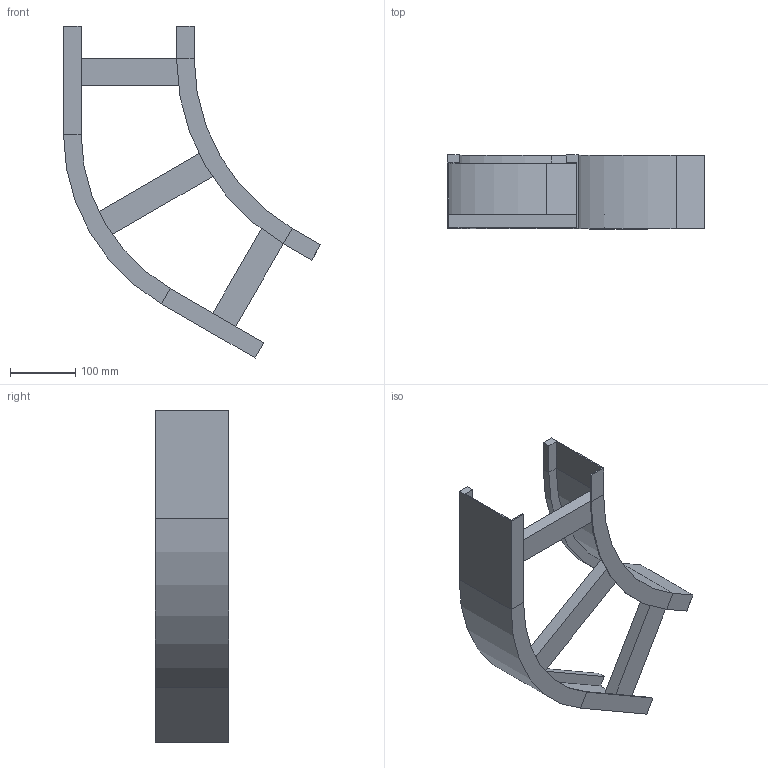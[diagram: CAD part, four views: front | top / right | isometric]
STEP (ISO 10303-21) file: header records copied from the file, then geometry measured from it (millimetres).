
FILE_DESCRIPTION (( 'STEP AP214' ), '1' );
FILE_NAME ('B2_13B3J200.step', '2025-02-21T15:19:55', ( '' ), ( '' ), 'SwSTEP 2.0', 'SolidWorks 2023', '' );
FILE_SCHEMA (( 'AUTOMOTIVE_DESIGN' ));
Length unit declared in the file: millimetre
Products named in the file (5): TRAVERSINO_200; B2_LONGH.ESTERNO 60°_H112.5_R300+200; TRAVERSINO_L226; B2_13B3J200; B2_LONGH.INTERNO 60°_H112.5_R300
Assembly tree (5 placements, depth 2):
  B2_13B3J200
    B2_LONGH.INTERNO 60°_H112.5_R300
    B2_LONGH.ESTERNO 60°_H112.5_R300+200
    TRAVERSINO_200  x2
    TRAVERSINO_L226
Bounding box: 393.3 x 112.5 x 508.01 mm (x, y, z)
Volume: 995253.8 mm3; surface area: 410935.4 mm2
Topology: 5 solids, 5 shells, 70 faces, 148 edges, 88 vertices
Faces by surface type: plane 62, cylinder 8
Entity records: 1822 total; most frequent: DIRECTION 296, CARTESIAN_POINT 288, ORIENTED_EDGE 272, EDGE_CURVE 136, LINE 120, VECTOR 120, AXIS2_PLACEMENT_3D 88, VERTEX_POINT 80
